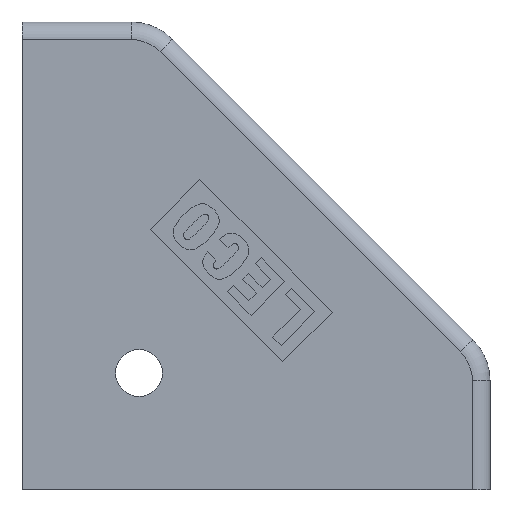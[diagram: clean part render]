
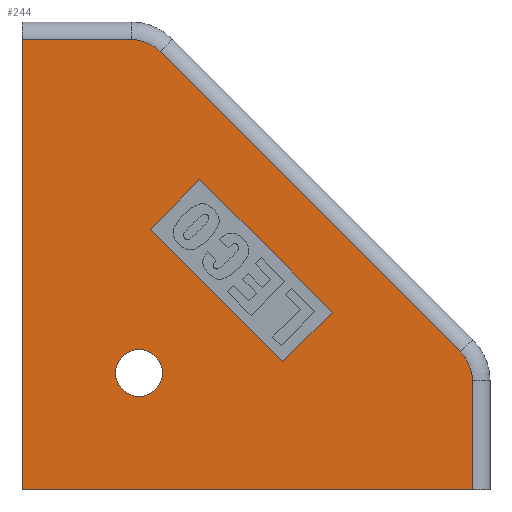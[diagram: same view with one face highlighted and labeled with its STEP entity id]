
A CAD part, front view. The second image highlights one B-rep face of the part: STEP entity #244.
In plain terms, the highlighted planar face has unit normal (0, -1, 0).
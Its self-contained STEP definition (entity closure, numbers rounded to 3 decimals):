
#244=ADVANCED_FACE('',(#627,#628,#629),#630,.F.);
#627=FACE_BOUND('',#1156,.T.);
#628=FACE_BOUND('',#1157,.T.);
#629=FACE_OUTER_BOUND('',#1158,.T.);
#630=PLANE('',#1159);
#1156=EDGE_LOOP('',(#1882));
#1157=EDGE_LOOP('',(#1883,#1884,#1885,#1886));
#1158=EDGE_LOOP('',(#1887,#1888,#1889,#1890,#1891,#1892,#1893));
#1159=AXIS2_PLACEMENT_3D('',#1894,#1895,#1896);
#1882=ORIENTED_EDGE('',*,*,#3305,.F.);
#1883=ORIENTED_EDGE('',*,*,#3306,.F.);
#1884=ORIENTED_EDGE('',*,*,#3307,.F.);
#1885=ORIENTED_EDGE('',*,*,#3308,.F.);
#1886=ORIENTED_EDGE('',*,*,#3309,.F.);
#1887=ORIENTED_EDGE('',*,*,#3310,.F.);
#1888=ORIENTED_EDGE('',*,*,#3311,.F.);
#1889=ORIENTED_EDGE('',*,*,#3125,.F.);
#1890=ORIENTED_EDGE('',*,*,#3312,.F.);
#1891=ORIENTED_EDGE('',*,*,#3313,.T.);
#1892=ORIENTED_EDGE('',*,*,#3314,.T.);
#1893=ORIENTED_EDGE('',*,*,#3315,.F.);
#1894=CARTESIAN_POINT('',(3.363,9.082,21.6));
#1895=DIRECTION('',(-0.0,1.0,0.0));
#1896=DIRECTION('',(1.0,0.0,0.0));
#3125=EDGE_CURVE('',#3726,#3729,#3730,.F.);
#3305=EDGE_CURVE('',#4043,#4043,#4044,.T.);
#3306=EDGE_CURVE('',#4045,#4046,#4047,.T.);
#3307=EDGE_CURVE('',#4048,#4045,#4049,.T.);
#3308=EDGE_CURVE('',#4050,#4048,#4051,.T.);
#3309=EDGE_CURVE('',#4046,#4050,#4052,.T.);
#3310=EDGE_CURVE('',#4053,#4054,#4055,.F.);
#3311=EDGE_CURVE('',#3729,#4053,#4056,.F.);
#3312=EDGE_CURVE('',#4057,#3726,#4058,.F.);
#3313=EDGE_CURVE('',#4057,#4059,#4060,.T.);
#3314=EDGE_CURVE('',#4059,#4061,#4062,.T.);
#3315=EDGE_CURVE('',#4054,#4061,#4063,.F.);
#3726=VERTEX_POINT('',#4612);
#3729=VERTEX_POINT('',#4615);
#3730=CIRCLE('',#4616,3.5);
#4043=VERTEX_POINT('',#5005);
#4044=CIRCLE('',#5006,2.0);
#4045=VERTEX_POINT('',#5007);
#4046=VERTEX_POINT('',#5008);
#4047=LINE('',#5009,#5010);
#4048=VERTEX_POINT('',#5011);
#4049=LINE('',#5012,#5013);
#4050=VERTEX_POINT('',#5014);
#4051=LINE('',#5015,#5016);
#4052=LINE('',#5017,#5018);
#4053=VERTEX_POINT('',#5019);
#4054=VERTEX_POINT('',#5020);
#4055=CIRCLE('',#5021,3.5);
#4056=LINE('',#5022,#5023);
#4057=VERTEX_POINT('',#5024);
#4058=LINE('',#5025,#5026);
#4059=VERTEX_POINT('',#5027);
#4060=LINE('',#5028,#5029);
#4061=VERTEX_POINT('',#5030);
#4062=LINE('',#5031,#5032);
#4063=LINE('',#5033,#5034);
#4612=CARTESIAN_POINT('',(12.691,9.082,60.1));
#4615=CARTESIAN_POINT('',(15.166,9.082,59.075));
#4616=AXIS2_PLACEMENT_3D('',#5743,#5744,#5745);
#5005=CARTESIAN_POINT('',(15.363,9.082,31.6));
#5006=AXIS2_PLACEMENT_3D('',#6053,#6054,#6055);
#5007=CARTESIAN_POINT('',(14.325,9.082,43.875));
#5008=CARTESIAN_POINT('',(25.639,9.082,32.561));
#5009=CARTESIAN_POINT('',(14.325,9.082,43.875));
#5010=VECTOR('',#6056,1.0);
#5011=CARTESIAN_POINT('',(18.568,9.082,48.117));
#5012=CARTESIAN_POINT('',(18.568,9.082,48.117));
#5013=VECTOR('',#6057,1.0);
#5014=CARTESIAN_POINT('',(29.881,9.082,36.804));
#5015=CARTESIAN_POINT('',(29.881,9.082,36.804));
#5016=VECTOR('',#6058,1.0);
#5017=CARTESIAN_POINT('',(25.639,9.082,32.561));
#5018=VECTOR('',#6059,1.0);
#5019=CARTESIAN_POINT('',(40.838,9.082,33.402));
#5020=CARTESIAN_POINT('',(41.863,9.082,30.927));
#5021=AXIS2_PLACEMENT_3D('',#6060,#6061,#6062);
#5022=CARTESIAN_POINT('',(40.838,9.082,33.402));
#5023=VECTOR('',#6063,1.0);
#5024=CARTESIAN_POINT('',(3.363,9.082,60.1));
#5025=CARTESIAN_POINT('',(3.363,9.082,60.1));
#5026=VECTOR('',#6064,1.0);
#5027=CARTESIAN_POINT('',(3.363,9.082,21.6));
#5028=CARTESIAN_POINT('',(3.363,9.082,61.6));
#5029=VECTOR('',#6065,1.0);
#5030=CARTESIAN_POINT('',(41.863,9.082,21.6));
#5031=CARTESIAN_POINT('',(3.363,9.082,21.6));
#5032=VECTOR('',#6066,1.0);
#5033=CARTESIAN_POINT('',(41.863,9.082,21.6));
#5034=VECTOR('',#6067,1.0);
#5743=CARTESIAN_POINT('',(12.691,9.082,56.6));
#5744=DIRECTION('',(0.0,-1.0,0.0));
#5745=DIRECTION('',(1.0,0.0,0.0));
#6053=CARTESIAN_POINT('',(13.363,9.082,31.6));
#6054=DIRECTION('',(0.0,-1.0,0.0));
#6055=DIRECTION('',(1.0,0.0,0.0));
#6056=DIRECTION('',(0.707,0.0,-0.707));
#6057=DIRECTION('',(-0.707,0.0,-0.707));
#6058=DIRECTION('',(-0.707,0.0,0.707));
#6059=DIRECTION('',(0.707,0.0,0.707));
#6060=CARTESIAN_POINT('',(38.363,9.082,30.927));
#6061=DIRECTION('',(0.0,-1.0,0.0));
#6062=DIRECTION('',(1.0,0.0,0.0));
#6063=DIRECTION('',(-0.707,0.0,0.707));
#6064=DIRECTION('',(-1.0,0.0,0.0));
#6065=DIRECTION('',(0.0,0.0,-1.0));
#6066=DIRECTION('',(1.0,0.0,0.0));
#6067=DIRECTION('',(0.0,0.0,1.0));
